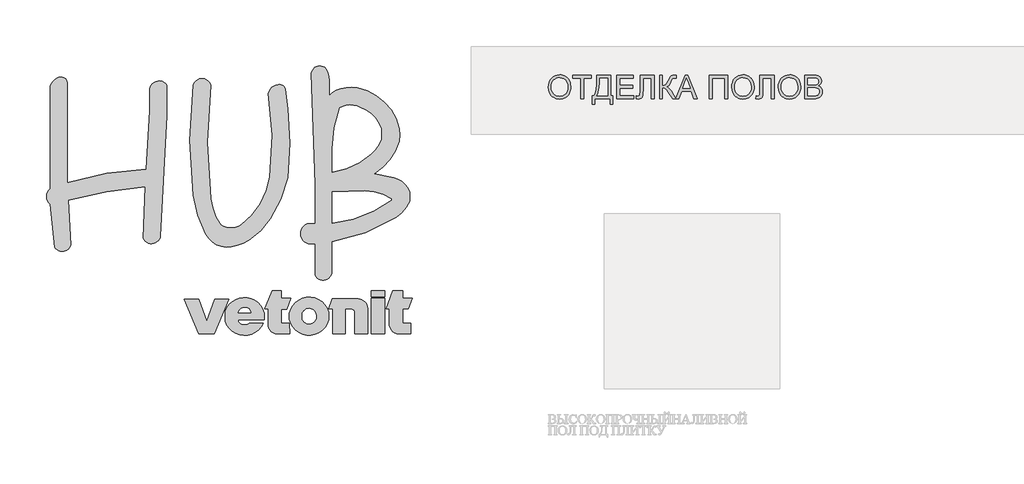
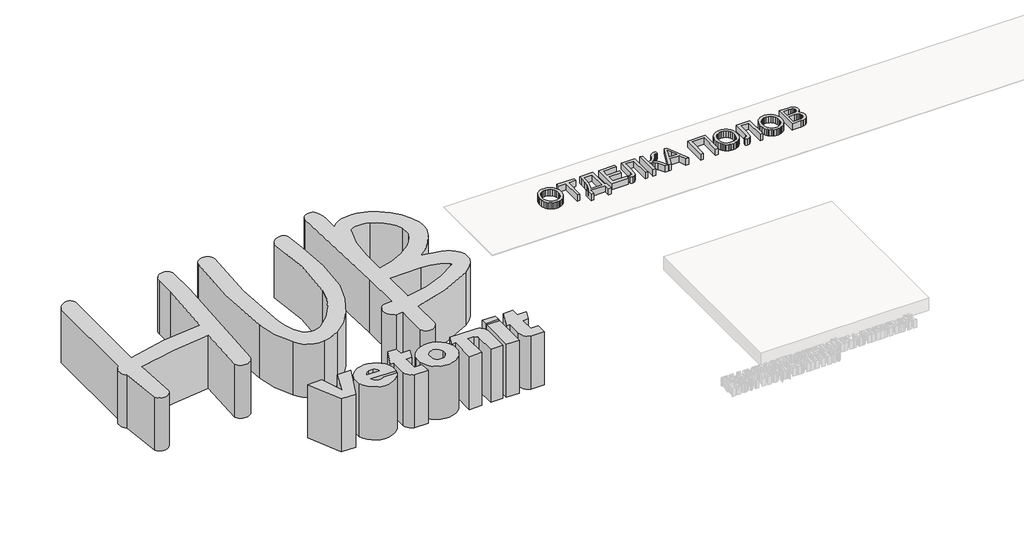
# One storey, part 9 of 17: 2 proxies.
"""IFC4 building model written with IfcOpenShell, lengths in millimetres."""

from ifc_helpers import new_model, si_unit, origin, origin_with_axes, place, context, project, spatial, polyline, outline, extrude, transform, mapped, element, save
from components import generic_models_8337a1a4

model = new_model("IFC4")

# Units and contexts
model_context = context("Model", 3, world=origin())
ifc_project = project(units=[si_unit("LENGTHUNIT", "METRE", prefix="MILLI")], contexts=[model_context])

# Site, building, storey
site = spatial("IfcSite", under=ifc_project)
building = spatial("IfcBuilding", under=site)
storey = spatial("IfcBuildingStorey", under=building, Name="Уровень 1", Elevation=0.0)

# Proxies
placement = place(None, origin())
element("IfcBuildingElementProxy", 1, Name="400 мм Arial", ObjectType="400 мм Arial", at=placement, inside=storey, context=model_context, shape_type="SweptSolid", body=[
    extrude(outline(polyline([(-8272.1654352, 19127.976291), (-8268.817709, 19175.1081059), (-8258.7745306, 19216.8320556), (-8242.0358998, 19253.1481399), (-8218.6018167, 19284.0563588), (-8189.8763642, 19308.7351093), (-8157.2636254, 19326.3627883), (-8120.7636001, 19336.9393956), (-8080.3762884, 19340.4649314), (-8053.3430931, 19338.8094624), (-8027.6710612, 19333.8430555), (-8003.3601927, 19325.5657106), (-7980.4104875, 19313.9774278), (-7959.4657393, 19299.4276948), (-7941.1697414, 19282.2659998), (-7925.5224939, 19262.4923425), (-7912.5239967, 19240.1067231), (-7902.30914, 19215.618045), (-7895.0128137, 19189.5352115), (-7889.1757527, 19132.5870787), (-7890.7116601, 19102.9296585), (-7895.3193821, 19074.8786564), (-7902.9989187, 19048.4340723), (-7913.75027, 19023.5959062), (-7927.3189843, 19001.0202145), (-7943.4506098, 18981.3630532), (-7962.1451465, 18964.6244224), (-7983.4025944, 18950.8043221), (-8006.3860221, 18939.9885915), (-8030.2584979, 18932.2630696), (-8055.0200219, 18927.6277564), (-8080.670594, 18926.082652), (-8108.1759045, 18927.7902376), (-8134.1851615, 18932.9129944), (-8158.6983651, 18941.4509224), (-8181.7155153, 18953.4040215), (-8202.6357381, 18968.3093737), (-8220.8581596, 18985.7040607), (-8236.3827798, 19005.5880826), (-8249.2095987, 19027.9614392), (-8266.4264761, 19076.5831763), (-8272.1654352, 19127.976291)]), holes=[polyline([(-8221.9372801, 19127.4857817), (-8219.4264855, 19094.1863297), (-8211.8941016, 19064.6270114), (-8199.3401286, 19038.8078267), (-8181.7645662, 19016.7287757), (-8160.3998194, 18999.0459144), (-8136.4782926, 18986.4152993), (-8109.999986, 18978.8369301), (-8080.9648996, 18976.3108071), (-8051.4331724, 18978.8614556), (-8024.6421661, 18986.5134011), (-8000.5918807, 18999.2666436), (-7979.2823161, 19017.1211831), (-7961.8355125, 19039.6662181), (-7949.3735099, 19066.4909469), (-7941.8963083, 19097.5953696), (-7939.4039078, 19132.9794861), (-7943.671339, 19177.4441566), (-7956.4736324, 19215.8755624), (-7977.4796943, 19247.3049475), (-8006.3584309, 19270.7635561), (-8041.1968559, 19285.3684713), (-8080.0819828, 19290.2367763), (-8108.1084594, 19287.8915286), (-8134.1115851, 19280.8557855), (-8158.0913599, 19269.1295469), (-8180.0477836, 19252.7128128), (-8198.3744383, 19230.8146371), (-8211.464906, 19202.6440733), (-8219.3191866, 19168.2011215), (-8221.9372801, 19127.4857817)])]), origin_with_axes(), (0.0, 0.0, 1.0), 120.0),
    extrude(outline(polyline([(-7719.6557294, 18932.3611714), (-7719.6557294, 19283.9582569), (-7851.5046364, 19283.9582569), (-7851.5046364, 19334.186412), (-7537.5786672, 19334.186412), (-7537.5786672, 19283.9582569), (-7669.4275743, 19283.9582569), (-7669.4275743, 18932.3611714), (-7719.6557294, 18932.3611714)])), origin_with_axes(), (0.0, 0.0, 1.0), 120.0),
    extrude(outline(polyline([(-7443.4008765, 19334.186412), (-7204.8171398, 19334.186412), (-7204.8171398, 18982.5893265), (-7167.1460235, 18982.5893265), (-7167.1460235, 18838.1833807), (-7217.3741786, 18838.1833807), (-7217.3741786, 18932.3611714), (-7474.7934734, 18932.3611714), (-7474.7934734, 18838.1833807), (-7525.0216285, 18838.1833807), (-7525.0216285, 18982.5893265), (-7493.6290315, 18982.5893265), (-7481.8568077, 19003.0542953), (-7471.6542137, 19028.1515116), (-7455.9579152, 19092.2426865), (-7446.5401361, 19174.8628513), (-7443.4008765, 19276.0120059), (-7443.4008765, 19334.186412)]), holes=[polyline([(-7255.0452949, 19283.9582569), (-7393.1727214, 19283.9582569), (-7393.1727214, 19263.7492727), (-7395.7233699, 19204.1769149), (-7403.3753154, 19126.1123556), (-7418.4830026, 19046.5762682), (-7429.7156662, 19012.6391541), (-7443.4008765, 18982.5893265), (-7255.0452949, 18982.5893265), (-7255.0452949, 19283.9582569)])]), origin_with_axes(), (0.0, 0.0, 1.0), 120.0),
    extrude(outline(polyline([(-7104.3608297, 18932.3611714), (-7104.3608297, 19334.186412), (-6815.548938, 19334.186412), (-6815.548938, 19283.9582569), (-7054.1326746, 19283.9582569), (-7054.1326746, 19164.6663886), (-6828.1059768, 19164.6663886), (-6828.1059768, 19114.4382336), (-7054.1326746, 19114.4382336), (-7054.1326746, 18982.5893265), (-6809.2704186, 18982.5893265), (-6809.2704186, 18932.3611714), (-7104.3608297, 18932.3611714)])), origin_with_axes(), (0.0, 0.0, 1.0), 120.0),
    extrude(outline(polyline([(-6702.5355891, 19334.186412), (-6457.6733331, 19334.186412), (-6457.6733331, 18932.3611714), (-6507.9014882, 18932.3611714), (-6507.9014882, 19283.9582569), (-6652.307434, 19283.9582569), (-6652.307434, 19078.9253583), (-6653.7666993, 19024.8589677), (-6658.144495, 18987.4453688), (-6667.1821294, 18961.5955273), (-6682.6209104, 18942.2204089), (-6703.7618624, 18930.1170913), (-6729.9060095, 18926.082652), (-6771.5993023, 18932.3611714), (-6765.3207829, 18982.5893265), (-6741.2858259, 18976.3108071), (-6724.3019405, 18979.6830587), (-6712.1986228, 18989.7998136), (-6704.9513475, 19012.4245563), (-6702.5355891, 19053.3207714), (-6702.5355891, 19334.186412)])), origin_with_axes(), (0.0, 0.0, 1.0), 120.0),
    extrude(outline(polyline([(-6145.5131975, 18932.3611714), (-6216.9313555, 19045.5707241), (-6244.5102424, 19081.880677), (-6267.2085615, 19104.677098), (-6290.4219154, 19116.7068392), (-6319.5459067, 19120.716753), (-6319.5459067, 18932.3611714), (-6369.7740617, 18932.3611714), (-6369.7740617, 19334.186412), (-6319.5459067, 19334.186412), (-6319.5459067, 19158.3878693), (-6285.5413476, 19161.71107), (-6263.3825887, 19171.680672), (-6245.4667356, 19195.1392806), (-6224.1908935, 19238.9295007), (-6196.4771165, 19295.0928187), (-6183.1107374, 19310.3108705), (-6165.0845196, 19322.9046975), (-6143.6860502, 19331.3659834), (-6120.2029162, 19334.186412), (-6087.2406894, 19333.5978008), (-6087.2406894, 19283.3696458), (-6098.3262002, 19283.6639514), (-6109.411711, 19283.9582569), (-6132.4165984, 19280.9416246), (-6148.6524572, 19271.8917275), (-6162.631973, 19252.8844911), (-6178.4754242, 19220.1920445), (-6197.9118563, 19179.4797703), (-6214.0373504, 19157.2106469), (-6229.9421154, 19145.487474), (-6248.7163599, 19136.4130514), (-6229.2615337, 19128.1357065), (-6209.9415976, 19113.7024696), (-6190.7565515, 19093.1133406), (-6171.7063955, 19066.3683195), (-6088.9224762, 18935.0293721), (-5929.5909918, 19334.186412), (-5886.8185785, 19334.186412), (-5726.5201304, 18932.3611714), (-5779.5932396, 18932.3611714), (-5825.5049126, 19057.9315591), (-5991.1008614, 19057.9315591), (-6037.0125344, 18932.3611714), (-6087.2406894, 18932.3611714), (-6089.9875417, 18932.3611714), (-6145.5131975, 18932.3611714)]), holes=[polyline([(-5972.6577107, 19108.1597142), (-5843.8499614, 19108.1597142), (-5880.1476516, 19206.9482926), (-5908.302887, 19283.9582569), (-5933.3188627, 19215.5812568), (-5972.6577107, 19108.1597142)])]), origin_with_axes(), (0.0, 0.0, 1.0), 120.0),
    extrude(outline(polyline([(-5515.8954255, 19334.186412), (-5201.9694562, 19334.186412), (-5201.9694562, 18932.3611714), (-5252.1976113, 18932.3611714), (-5252.1976113, 19283.9582569), (-5465.6672704, 19283.9582569), (-5465.6672704, 18932.3611714), (-5515.8954255, 18932.3611714), (-5515.8954255, 19334.186412)])), origin_with_axes(), (0.0, 0.0, 1.0), 120.0),
    extrude(outline(polyline([(-5132.905743, 19127.976291), (-5129.5580169, 19175.1081059), (-5119.5148384, 19216.8320556), (-5102.7762076, 19253.1481399), (-5079.3421245, 19284.0563588), (-5050.6166721, 19308.7351093), (-5018.0039332, 19326.3627883), (-4981.5039079, 19336.9393956), (-4941.1165962, 19340.4649314), (-4914.0834009, 19338.8094624), (-4888.411369, 19333.8430555), (-4864.1005005, 19325.5657106), (-4841.1507954, 19313.9774278), (-4820.2060471, 19299.4276948), (-4801.9100492, 19282.2659998), (-4786.2628017, 19262.4923425), (-4773.2643045, 19240.1067231), (-4763.0494478, 19215.618045), (-4755.7531216, 19189.5352115), (-4749.9160606, 19132.5870787), (-4751.4519679, 19102.9296585), (-4756.0596899, 19074.8786564), (-4763.7392265, 19048.4340723), (-4774.4905778, 19023.5959062), (-4788.0592921, 19001.0202145), (-4804.1909176, 18981.3630532), (-4822.8854543, 18964.6244224), (-4844.1429023, 18950.8043221), (-4867.1263299, 18939.9885915), (-4890.9988057, 18932.2630696), (-4915.7603297, 18927.6277564), (-4941.4109018, 18926.082652), (-4968.9162123, 18927.7902376), (-4994.9254694, 18932.9129944), (-5019.438673, 18941.4509224), (-5042.4558231, 18953.4040215), (-5063.3760459, 18968.3093737), (-5081.5984674, 18985.7040607), (-5097.1230876, 19005.5880826), (-5109.9499065, 19027.9614392), (-5127.1667839, 19076.5831763), (-5132.905743, 19127.976291)]), holes=[polyline([(-5082.6775879, 19127.4857817), (-5080.1667933, 19094.1863297), (-5072.6344095, 19064.6270114), (-5060.0804364, 19038.8078267), (-5042.5048741, 19016.7287757), (-5021.1401272, 18999.0459144), (-4997.2186005, 18986.4152993), (-4970.7402939, 18978.8369301), (-4941.7052074, 18976.3108071), (-4912.1734802, 18978.8614556), (-4885.3824739, 18986.5134011), (-4861.3321885, 18999.2666436), (-4840.0226239, 19017.1211831), (-4822.5758203, 19039.6662181), (-4810.1138177, 19066.4909469), (-4802.6366162, 19097.5953696), (-4800.1442156, 19132.9794861), (-4804.4116468, 19177.4441566), (-4817.2139402, 19215.8755624), (-4838.2200021, 19247.3049475), (-4867.0987388, 19270.7635561), (-4901.9371637, 19285.3684713), (-4940.8222906, 19290.2367763), (-4968.8487673, 19287.8915286), (-4994.851893, 19280.8557855), (-5018.8316677, 19269.1295469), (-5040.7880914, 19252.7128128), (-5059.1147461, 19230.8146371), (-5072.2052138, 19202.6440733), (-5080.0594944, 19168.2011215), (-5082.6775879, 19127.4857817)])]), origin_with_axes(), (0.0, 0.0, 1.0), 120.0),
    extrude(outline(polyline([(-4649.4597504, 19334.186412), (-4404.5974944, 19334.186412), (-4404.5974944, 18932.3611714), (-4454.8256495, 18932.3611714), (-4454.8256495, 19283.9582569), (-4599.2315953, 19283.9582569), (-4599.2315953, 19078.9253583), (-4600.6908606, 19024.8589677), (-4605.0686563, 18987.4453688), (-4614.1062907, 18961.5955273), (-4629.5450717, 18942.2204089), (-4650.6860237, 18930.1170913), (-4676.8301709, 18926.082652), (-4718.5234636, 18932.3611714), (-4712.2449443, 18982.5893265), (-4688.2099872, 18976.3108071), (-4671.2261018, 18979.6830587), (-4659.1227842, 18989.7998136), (-4651.8755089, 19012.4245563), (-4649.4597504, 19053.3207714), (-4649.4597504, 19334.186412)])), origin_with_axes(), (0.0, 0.0, 1.0), 120.0),
    extrude(outline(polyline([(-4335.5337812, 19127.976291), (-4332.186055, 19175.1081059), (-4322.1428766, 19216.8320556), (-4305.4042458, 19253.1481399), (-4281.9701627, 19284.0563588), (-4253.2447102, 19308.7351093), (-4220.6319714, 19326.3627883), (-4184.1319461, 19336.9393956), (-4143.7446344, 19340.4649314), (-4116.7114391, 19338.8094624), (-4091.0394072, 19333.8430555), (-4066.7285387, 19325.5657106), (-4043.7788336, 19313.9774278), (-4022.8340853, 19299.4276948), (-4004.5380874, 19282.2659998), (-3988.8908399, 19262.4923425), (-3975.8923427, 19240.1067231), (-3965.677486, 19215.618045), (-3958.3811597, 19189.5352115), (-3952.5440988, 19132.5870787), (-3954.0800061, 19102.9296585), (-3958.6877281, 19074.8786564), (-3966.3672647, 19048.4340723), (-3977.118616, 19023.5959062), (-3990.6873303, 19001.0202145), (-4006.8189558, 18981.3630532), (-4025.5134925, 18964.6244224), (-4046.7709405, 18950.8043221), (-4069.7543681, 18939.9885915), (-4093.6268439, 18932.2630696), (-4118.3883679, 18927.6277564), (-4144.03894, 18926.082652), (-4171.5442505, 18927.7902376), (-4197.5535075, 18932.9129944), (-4222.0667112, 18941.4509224), (-4245.0838613, 18953.4040215), (-4266.0040841, 18968.3093737), (-4284.2265056, 18985.7040607), (-4299.7511258, 19005.5880826), (-4312.5779447, 19027.9614392), (-4329.7948221, 19076.5831763), (-4335.5337812, 19127.976291)]), holes=[polyline([(-4285.3056261, 19127.4857817), (-4282.7948315, 19094.1863297), (-4275.2624477, 19064.6270114), (-4262.7084746, 19038.8078267), (-4245.1329123, 19016.7287757), (-4223.7681654, 18999.0459144), (-4199.8466386, 18986.4152993), (-4173.368332, 18978.8369301), (-4144.3332456, 18976.3108071), (-4114.8015184, 18978.8614556), (-4088.0105121, 18986.5134011), (-4063.9602267, 18999.2666436), (-4042.6506621, 19017.1211831), (-4025.2038585, 19039.6662181), (-4012.7418559, 19066.4909469), (-4005.2646543, 19097.5953696), (-4002.7722538, 19132.9794861), (-4007.039685, 19177.4441566), (-4019.8419784, 19215.8755624), (-4040.8480403, 19247.3049475), (-4069.726777, 19270.7635561), (-4104.5652019, 19285.3684713), (-4143.4503288, 19290.2367763), (-4171.4768055, 19287.8915286), (-4197.4799311, 19280.8557855), (-4221.4597059, 19269.1295469), (-4243.4161296, 19252.7128128), (-4261.7427843, 19230.8146371), (-4274.833252, 19202.6440733), (-4282.6875326, 19168.2011215), (-4285.3056261, 19127.4857817)])]), origin_with_axes(), (0.0, 0.0, 1.0), 120.0),
    extrude(outline(polyline([(-3883.4803855, 18932.3611714), (-3883.4803855, 19334.186412), (-3730.1471699, 19334.186412), (-3687.9756306, 19331.2310933), (-3655.050192, 19322.3651372), (-3629.8134871, 19307.3678146), (-3610.7081488, 19286.0183961), (-3598.6784076, 19260.9043186), (-3594.6684938, 19234.6130187), (-3598.0407455, 19210.4186461), (-3608.1575003, 19187.6712761), (-3625.0923348, 19167.7688601), (-3648.9188254, 19152.1093499), (-3620.4570217, 19137.2469173), (-3599.4264343, 19114.6344373), (-3586.4401999, 19085.7679634), (-3582.1114551, 19052.1435491), (-3585.0667738, 19024.1232038), (-3593.9327299, 18998.1384722), (-3607.1642189, 18976.041027), (-3623.2161367, 18959.6825409), (-3642.8732979, 18947.8367407), (-3666.9205177, 18939.2773529), (-3696.1426108, 18934.0902168), (-3731.3243923, 18932.3611714), (-3883.4803855, 18932.3611714)]), holes=[polyline([(-3833.2522305, 18982.5893265), (-3730.2452718, 18982.5893265), (-3692.966563, 18984.5513638), (-3661.4268132, 18995.4897218), (-3649.8507931, 19004.9197636), (-3640.5311159, 19017.8078962), (-3634.3874866, 19033.577771), (-3632.3396102, 19051.6530397), (-3634.7431059, 19072.6468389), (-3641.953593, 19090.6975821), (-3654.5474199, 19104.811988), (-3673.1009352, 19113.9967752), (-3699.3799724, 19119.0367585), (-3735.1503651, 19120.716753), (-3833.2522305, 19120.716753), (-3833.2522305, 18982.5893265)]), polyline([(-3833.2522305, 19170.944908), (-3741.5269863, 19170.944908), (-3687.9633678, 19175.2613901), (-3669.2136488, 19182.7048691), (-3655.736905, 19193.8516936), (-3647.606713, 19208.5301852), (-3644.8966489, 19226.5686657), (-3647.422772, 19244.0798487), (-3655.0011411, 19259.3346887), (-3667.2883997, 19271.2418026), (-3683.9411913, 19278.7098072), (-3709.4967273, 19282.6461445), (-3748.4922188, 19283.9582569), (-3833.2522305, 19283.9582569), (-3833.2522305, 19170.944908)])]), origin_with_axes(), (0.0, 0.0, 1.0), 120.0),
])
generic_models_shape = generic_models_8337a1a4(model_context)
element("IfcBuildingElementProxy", 2, Name="Семейство2 : Семейство1", ObjectType="Семейство2 : Семейство1", at=placement, inside=storey, context=model_context, shape_type="MappedRepresentation", body=[
    mapped(generic_models_shape, transform((-13670.280889, 16808.4504702, 0.0), x_axis=(1.0, 0.0, 0.0), y_axis=(0.0, 1.0, 0.0), z_axis=(0.0, 0.0, 1.0))),
])

save(model, "model.ifc")
